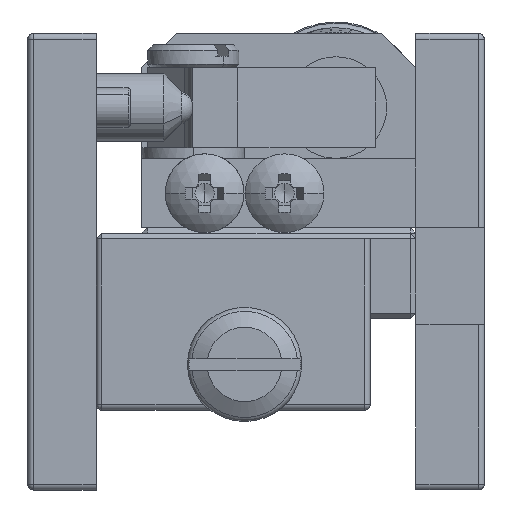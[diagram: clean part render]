
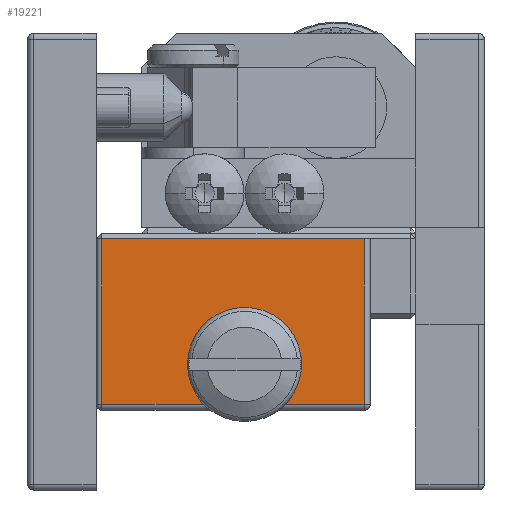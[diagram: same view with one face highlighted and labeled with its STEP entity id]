
A CAD part, left-side view. The second image highlights one B-rep face of the part: STEP entity #19221.
In plain terms, the highlighted planar face has unit normal (-1, 0, 0).
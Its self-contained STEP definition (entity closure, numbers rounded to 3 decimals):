
#1604 = ORIENTED_EDGE ( 'NONE', *, *, #32028, .T. ) ;
#1802 = CARTESIAN_POINT ( 'NONE',  ( -21.025, 30.775, 2. ) ) ;
#2170 = DIRECTION ( 'NONE',  ( 1., 0., 0. ) ) ;
#2793 = VECTOR ( 'NONE', #35255, 1000. ) ;
#4783 = DIRECTION ( 'NONE',  ( 0., -1., 0. ) ) ;
#5453 = DIRECTION ( 'NONE',  ( 0., 0., -1. ) ) ;
#6315 = CARTESIAN_POINT ( 'NONE',  ( -21.025, 31.275, -12.5 ) ) ;
#7436 = FACE_OUTER_BOUND ( 'NONE', #44944, .T. ) ;
#8122 = EDGE_CURVE ( 'NONE', #36591, #19559, #35638, .T. ) ;
#8422 = CARTESIAN_POINT ( 'NONE',  ( -21.025, 31.275, 2. ) ) ;
#8740 = LINE ( 'NONE', #20924, #27843 ) ;
#11431 = VERTEX_POINT ( 'NONE', #22826 ) ;
#13911 = ORIENTED_EDGE ( 'NONE', *, *, #8122, .F. ) ;
#14117 = VERTEX_POINT ( 'NONE', #28610 ) ;
#18348 = AXIS2_PLACEMENT_3D ( 'NONE', #23748, #2170, #27352 ) ;
#19221 = ADVANCED_FACE ( 'NONE', ( #7436 ), #20127, .F. ) ;
#19559 = VERTEX_POINT ( 'NONE', #26234 ) ;
#20127 = PLANE ( 'NONE',  #18348 ) ;
#20227 = LINE ( 'NONE', #1802, #46627 ) ;
#20924 = CARTESIAN_POINT ( 'NONE',  ( -21.025, 7.775, 2. ) ) ;
#21464 = CARTESIAN_POINT ( 'NONE',  ( -21.025, 30.775, 2. ) ) ;
#22826 = CARTESIAN_POINT ( 'NONE',  ( -21.025, 7.775, -12.5 ) ) ;
#23748 = CARTESIAN_POINT ( 'NONE',  ( -21.025, 31.275, 2. ) ) ;
#26234 = CARTESIAN_POINT ( 'NONE',  ( -21.025, 7.775, 2. ) ) ;
#27035 = ORIENTED_EDGE ( 'NONE', *, *, #35184, .T. ) ;
#27352 = DIRECTION ( 'NONE',  ( 0., 0., -1. ) ) ;
#27843 = VECTOR ( 'NONE', #46021, 1000. ) ;
#28610 = CARTESIAN_POINT ( 'NONE',  ( -21.025, 30.775, -12.5 ) ) ;
#31371 = ORIENTED_EDGE ( 'NONE', *, *, #38398, .T. ) ;
#31552 = LINE ( 'NONE', #6315, #2793 ) ;
#32028 = EDGE_CURVE ( 'NONE', #36591, #14117, #20227, .T. ) ;
#33399 = VECTOR ( 'NONE', #4783, 1000. ) ;
#35184 = EDGE_CURVE ( 'NONE', #11431, #19559, #8740, .T. ) ;
#35255 = DIRECTION ( 'NONE',  ( 0., -1., 0. ) ) ;
#35638 = LINE ( 'NONE', #8422, #33399 ) ;
#36591 = VERTEX_POINT ( 'NONE', #21464 ) ;
#38398 = EDGE_CURVE ( 'NONE', #14117, #11431, #31552, .T. ) ;
#44944 = EDGE_LOOP ( 'NONE', ( #31371, #27035, #13911, #1604 ) ) ;
#46021 = DIRECTION ( 'NONE',  ( 0., 0., 1. ) ) ;
#46627 = VECTOR ( 'NONE', #5453, 1000. ) ;
